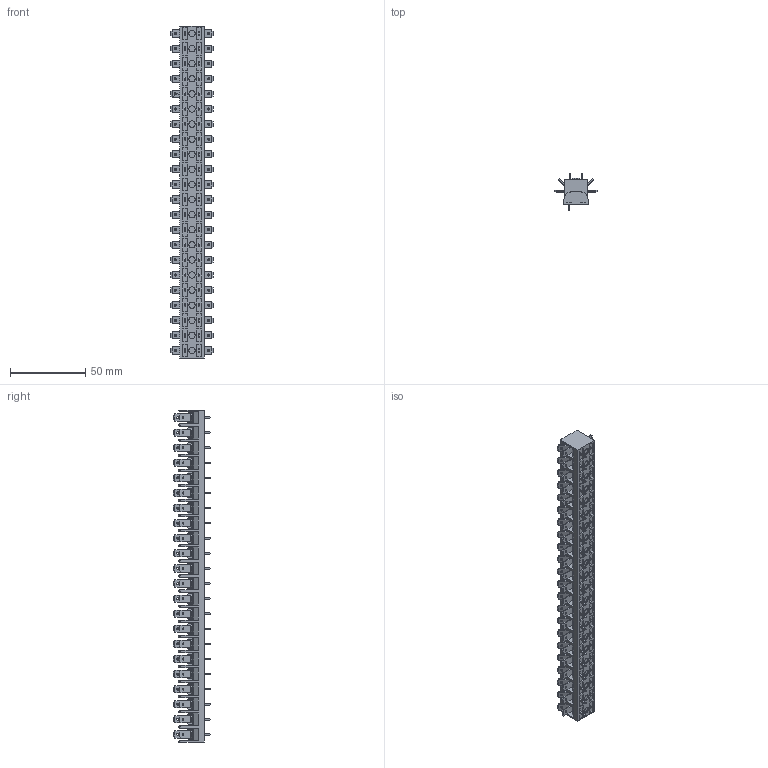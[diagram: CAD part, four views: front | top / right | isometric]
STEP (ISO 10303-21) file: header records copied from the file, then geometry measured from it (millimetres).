
FILE_DESCRIPTION (( 'STEP AP203' ), '1' );
FILE_NAME ('983-FS-22.STEP', '2019-01-18T00:45:54', ( '' ), ( '' ), 'SwSTEP 2.0', 'SolidWorks 2016', '' );
FILE_SCHEMA (( 'CONFIG_CONTROL_DESIGN' ));
Products named in the file (1): 983-FS-22
Bounding box: 28 x 24.71 x 220 mm (x, y, z)
Volume: 36990.5 mm3; surface area: 44505.5 mm2
Topology: 21 solids, 23 shells, 4741 faces, 12790 edges, 8202 vertices
Faces by surface type: plane 3570, cylinder 995, bspline 176
Entity records: 155012 total; most frequent: CARTESIAN_POINT 34933, ORIENTED_EDGE 25580, DIRECTION 23824, EDGE_CURVE 12790, VECTOR 10096, LINE 10096, VERTEX_POINT 8204, AXIS2_PLACEMENT_3D 6864
